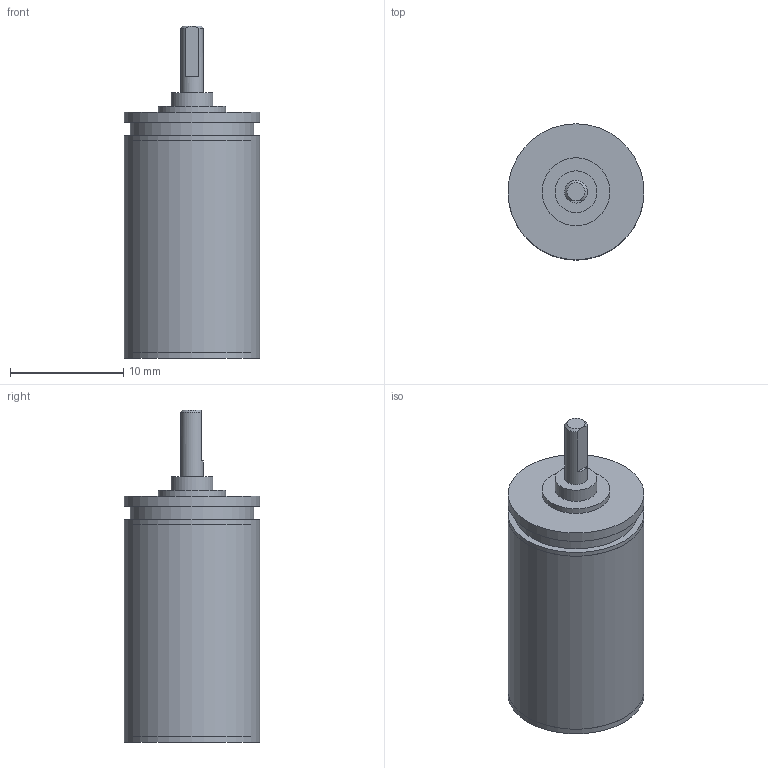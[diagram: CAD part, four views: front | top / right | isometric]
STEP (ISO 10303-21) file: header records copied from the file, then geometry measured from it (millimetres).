
FILE_DESCRIPTION(/* description */ (''),/* implementation_level */ '2;1');
FILE_NAME(/* name */ '12-3_6.stp',/* time_stamp */ '2016-08-24T10:08:38+02:00',/* author */ ('DR. FRITZ FAULHABER GmbH & Co. KG'),/* organization */ ('DR. FRITZ FAULHABER GmbH & Co. KG'),/* preprocessor_version */ 'ST-DEVELOPER v16',/* originating_system */ 'SIEMENS PLM Software NX 10.0',/* authorisation */ '');
FILE_SCHEMA (('AUTOMOTIVE_DESIGN { 1 0 10303 214 3 1 1 1 }'));
Length unit declared in the file: millimetre
Products named in the file (1): H00000569_A
Bounding box: 12 x 12 x 29.3 mm (x, y, z)
Volume: 2403.6 mm3; surface area: 1206.4 mm2
Topology: 1 solids, 1 shells, 32 faces, 52 edges, 34 vertices
Faces by surface type: plane 16, cylinder 14, cone 2
Full cylindrical faces by diameter (mm): 2 x1, 2.48 x1, 2.6 x1, 3.7 x1, 5 x1, 6 x2, 10.88 x1, 11.99 x2, 12 x4
Entity records: 692 total; most frequent: DIRECTION 129, CARTESIAN_POINT 115, ORIENTED_EDGE 70, AXIS2_PLACEMENT_3D 63, EDGE_LOOP 59, FACE_BOUND 54, EDGE_CURVE 35, ADVANCED_FACE 32
